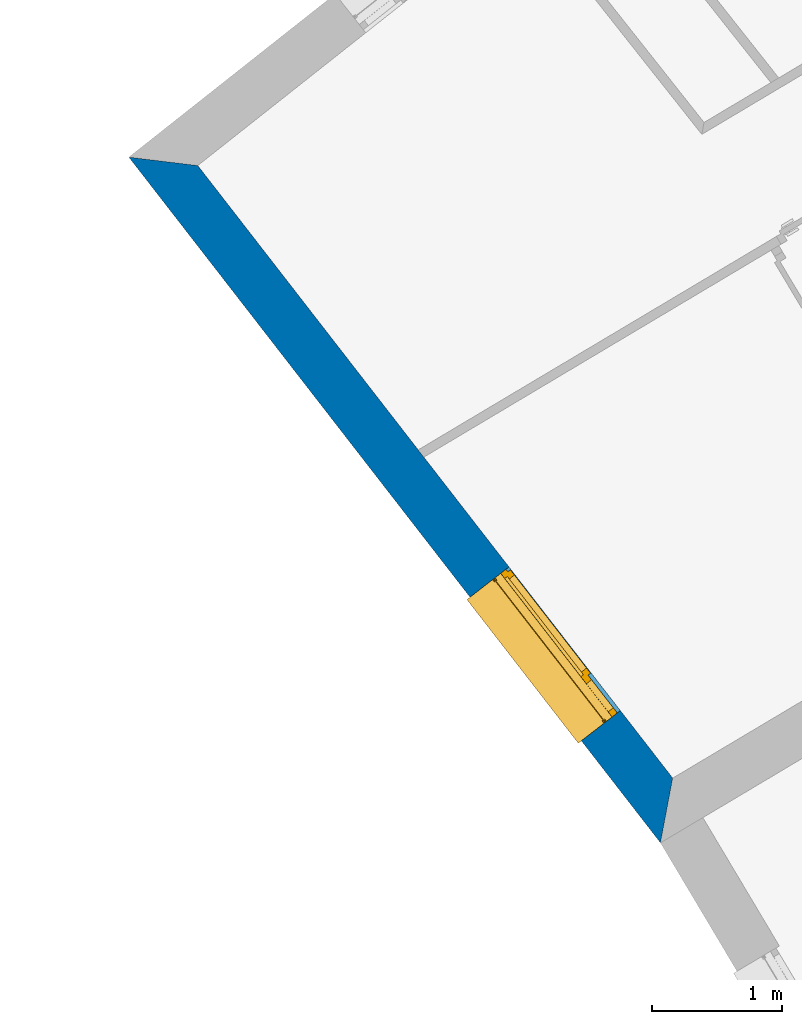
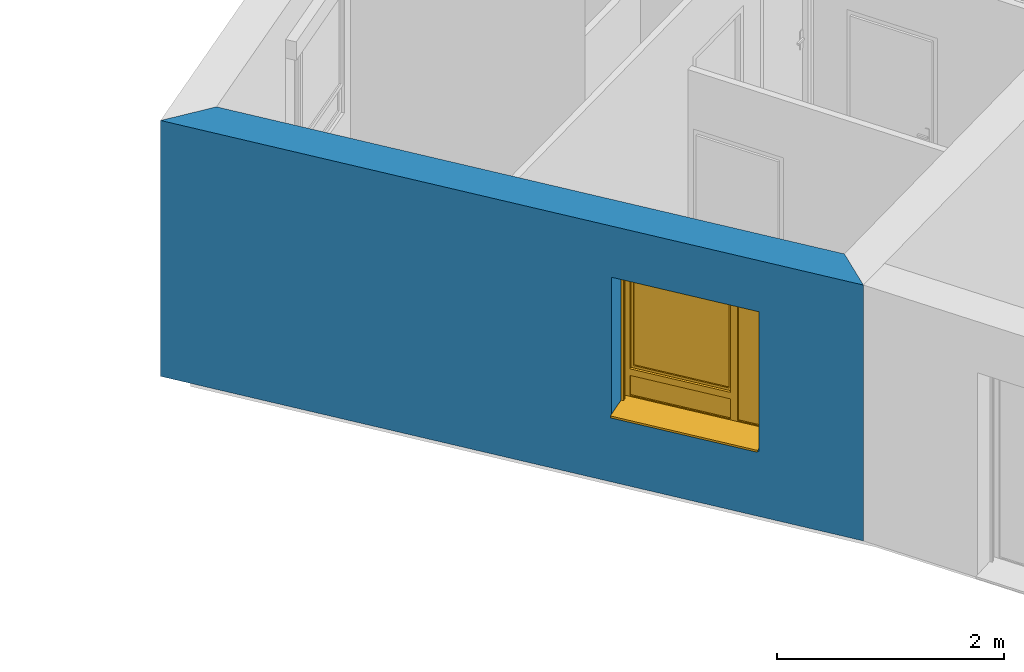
# One storey, part 40 of 121: 1 wall, 1 window, 1 opening.
"""IFC2X3 building model written with IfcOpenShell, lengths in metres."""

from ifc_helpers import new_model, entity, si_unit, converted_unit, derived_unit, money_unit, direction, frame, origin_with_axes, place, context, subcontext, project, spatial, polyline, outline, extrude, open_shell, faceted_brep, surface_model, source, transform, mapped, material, layer, layer_set, layer_usage, type_object, element, fill, save


model = new_model("IFC2X3")

# Units and contexts
model_context = context("Model", 3, precision=1e-05, world=origin_with_axes(), true_north=direction((0.0, 1.0)))
body_context = subcontext(model_context, "Body", "Model", "MODEL_VIEW")
ifc_project = project(units=[si_unit("LENGTHUNIT", "METRE"), si_unit("AREAUNIT", "SQUARE_METRE"), si_unit("VOLUMEUNIT", "CUBIC_METRE"), converted_unit("PLANEANGLEUNIT", "DEGREE", entity("IfcPlaneAngleMeasure", 0.0174532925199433), si_unit("PLANEANGLEUNIT", "RADIAN"), dimensions=[0, 0, 0, 0, 0, 0, 0]), money_unit("CHF"), converted_unit("TIMEUNIT", "Year", entity("IfcTimeMeasure", 31557600.0), si_unit("TIMEUNIT", "SECOND"), dimensions=[0, 0, 1, 0, 0, 0, 0]), si_unit("MASSUNIT", "GRAM", prefix="KILO"), si_unit("THERMODYNAMICTEMPERATUREUNIT", "DEGREE_CELSIUS"), si_unit("LUMINOUSINTENSITYUNIT", "LUMEN"), si_unit("ENERGYUNIT", "JOULE", prefix="MEGA"), derived_unit("THERMALCONDUCTANCEUNIT", [(si_unit("POWERUNIT", "WATT"), 1), (si_unit("LENGTHUNIT", "METRE"), -1), (si_unit("THERMODYNAMICTEMPERATUREUNIT", "KELVIN"), -1)]), derived_unit("SPECIFICHEATCAPACITYUNIT", [(si_unit("ENERGYUNIT", "JOULE"), 1), (si_unit("MASSUNIT", "GRAM", prefix="KILO"), -1), (si_unit("THERMODYNAMICTEMPERATUREUNIT", "KELVIN"), -1)]), derived_unit("MASSDENSITYUNIT", [(si_unit("MASSUNIT", "GRAM", prefix="KILO"), 1), (si_unit("VOLUMEUNIT", "CUBIC_METRE"), -1)])], contexts=[model_context])

# Site, building, storey
site_placement = place(None, origin_with_axes())
site = spatial("IfcSite", under=ifc_project, at=site_placement, Name="Site", CompositionType="ELEMENT")
building_placement = place(site_placement, origin_with_axes())
building = spatial("IfcBuilding", under=site, at=building_placement, Name="Bâtiment", CompositionType="ELEMENT")
storey_placement = place(building_placement, frame((0.0, 0.0, 2.75), z_axis=(0.0, 0.0, 1.0), x_axis=(1.0, 0.0, 0.0)))
storey = spatial("IfcBuildingStorey", under=building, at=storey_placement, Name="Etage 1", CompositionType="ELEMENT", Elevation=2.75)

# Wall, opening, window
ifc_material_1 = material(Name="Parpaing 312445824")
ifc_layer_1 = layer(ifc_material_1, 0.22, ventilated="UNKNOWN")
ifc_material_2 = material(Name="Isolant styromousse 301821074")
ifc_layer_2 = layer(ifc_material_2, 0.16, ventilated="UNKNOWN")
ifc_layer_set = layer_set([ifc_layer_1, ifc_layer_2], Name="isol int 22+16 0836643197")
ifc_layer_usage = layer_usage(ifc_layer_set, "AXIS2", "POSITIVE", 0.0)
wall_type = type_object("IfcWallType", Name="isol int 22+16 0836643197 380", PredefinedType="NOTDEFINED")
wall_placement = place(storey_placement, frame((9534.350950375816, -1041.923994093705, 57.7), z_axis=(0.0, 0.0, 1.0), x_axis=(0.6127569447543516, -0.79027142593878, 0.0)))
wall = element("IfcWallStandardCase", 1, at=wall_placement, inside=storey, type_object=wall_type, material=ifc_layer_usage, Name="Mur-113", context=body_context, shape_type="SweptSolid", body=[
    extrude(outline(polyline([(0.0, 0.0), (6.684138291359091, 0.0), (6.34796234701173, 0.3800000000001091), (0.3764847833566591, 0.3799999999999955), (0.0, 0.0)])), origin_with_axes(), (0.0, 0.0, 1.0), 2.75),
])
opening_placement = place(wall_placement, frame((4.989416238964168, 0.0, 0.7000000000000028), z_axis=(0.0, 0.0, 1.0), x_axis=(1.0, 0.0, 0.0)))
opening = element("IfcOpeningElement", 2, at=opening_placement, cuts=wall, Name="Fen-045", context=body_context, shape_type="Brep", body=[
    faceted_brep([(-0.7000000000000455, 0.4800000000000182, 1.5), (0.7000000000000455, 0.4800000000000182, 1.5), (0.7000000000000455, 3.617755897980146, 1.5), (-0.6999999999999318, 3.617755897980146, 1.5), (-0.7000000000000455, 0.4800000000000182, 1.700000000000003), (0.7000000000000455, 0.4800000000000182, 1.700000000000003), (0.7000000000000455, 0.3000000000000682, 1.5), (0.7000000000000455, 0.3000000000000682, 0.0), (0.7000000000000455, 3.617755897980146, 0.0), (-0.6999999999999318, 3.617755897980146, 0.0), (-0.7000000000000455, 0.2999999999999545, 1.5), (-0.7000000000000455, 0.2999999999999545, 0.0), (-0.7000000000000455, 0.2200000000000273, 1.5), (-0.7000000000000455, 0.2200000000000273, 1.700000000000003), (0.7000000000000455, 0.2200000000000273, 1.700000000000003), (0.7000000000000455, 0.2200000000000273, 1.5), (0.7000000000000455, -3.237755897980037, 1.5), (0.7000000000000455, -3.237755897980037, 0.0), (-0.7000000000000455, -3.237755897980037, 0.0), (-0.7000000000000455, -3.237755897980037, 1.5)], [[[0, 1, 2, 3]], [[1, 0, 4, 5]], [[1, 6, 7, 8, 2]], [[2, 8, 9, 3]], [[10, 0, 3, 9, 11]], [[0, 10, 12, 13, 4]], [[14, 5, 4, 13]], [[6, 1, 5, 14, 15]], [[6, 15, 16, 17, 7]], [[7, 11, 9, 8]], [[12, 10, 11, 18, 19]], [[12, 15, 14, 13]], [[15, 12, 19, 16]], [[19, 18, 17, 16]], [[11, 7, 17, 18]]]),
])
window_style = type_object("IfcWindowStyle", Name="Fenêtre variable 27", ConstructionType="NOTDEFINED", OperationType="TRIPLE_PANEL_RIGHT", ParameterTakesPrecedence=False, Sizeable=False)
shared_shape = source(origin_with_axes(), body_context, "Body", "SurfaceModel", [
    surface_model("IfcShellBasedSurfaceModel", [(-0.7, -0.05100000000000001, 0.05), (-0.7, -0.05100000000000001, 0.04), (0.7, -0.05100000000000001, 0.04000000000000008), (0.7, -0.05100000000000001, 0.05000000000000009), (-0.7, -0.3799999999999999, 0.02899999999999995), (0.7, -0.3799999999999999, 0.02900000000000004), (-0.7, -0.3799999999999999, 0.008999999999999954), (0.7, -0.3799999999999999, 0.00900000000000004), (-0.7, -0.3699999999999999, 0.01899999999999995), (0.7, -0.3699999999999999, 0.01900000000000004)], [open_shell([[[0, 1, 2, 3]], [[1, 4, 5, 2]], [[4, 6, 7, 5]], [[6, 8, 9, 7]]])]),
    faceted_brep([(-0.7, -0.13, 1.7), (-0.697, -0.13, 1.7), (-0.697, 0.13, 1.7), (-0.7, 0.13, 1.7), (-0.7, -0.13, 1.5), (-0.697, -0.13, 1.5), (-0.697, 0.13, 1.5), (-0.7, 0.13, 1.5)], [[[0, 1, 2, 3]], [[4, 5, 1, 0]], [[1, 5, 6, 2]], [[3, 2, 6, 7]], [[0, 3, 7, 4]], [[7, 6, 5, 4]]]),
    faceted_brep([(0.6970000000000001, -0.1299999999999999, 1.7), (0.7000000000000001, -0.1299999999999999, 1.7), (0.7000000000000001, 0.1300000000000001, 1.7), (0.6970000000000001, 0.1300000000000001, 1.7), (0.6970000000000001, -0.1299999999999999, 1.5), (0.7000000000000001, -0.1299999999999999, 1.5), (0.7000000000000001, 0.1300000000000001, 1.5), (0.6970000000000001, 0.1300000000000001, 1.5)], [[[0, 1, 2, 3]], [[4, 5, 1, 0]], [[1, 5, 6, 2]], [[3, 2, 6, 7]], [[0, 3, 7, 4]], [[7, 6, 5, 4]]]),
    faceted_brep([(-0.697, -0.13, 1.5), (0.697, -0.1299999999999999, 1.5), (0.697, -0.1299999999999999, 1.7), (-0.697, -0.13, 1.7), (-0.697, -0.127, 1.5), (0.697, -0.1269999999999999, 1.5), (0.697, -0.1269999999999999, 1.697), (0.697, 0.1270000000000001, 1.697), (0.697, 0.1270000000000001, 1.503), (0.697, -0.1079999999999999, 1.503), (0.697, -0.1079999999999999, 1.5), (0.697, 0.1300000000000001, 1.5), (0.697, 0.1300000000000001, 1.7), (-0.697, 0.13, 1.7), (-0.697, 0.13, 1.5), (-0.697, -0.108, 1.5), (-0.697, -0.108, 1.503), (-0.697, 0.127, 1.503), (-0.697, 0.127, 1.697), (-0.697, -0.127, 1.697)], [[[0, 1, 2, 3]], [[4, 5, 1, 0]], [[1, 5, 6, 7, 8, 9, 10, 11, 12, 2]], [[3, 2, 12, 13]], [[0, 3, 13, 14, 15, 16, 17, 18, 19, 4]], [[19, 6, 5, 4]], [[18, 7, 6, 19]], [[17, 8, 7, 18]], [[16, 9, 8, 17]], [[15, 10, 9, 16]], [[14, 11, 10, 15]], [[13, 12, 11, 14]]]),
    faceted_brep([(-0.694, -0.08075423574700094, 1.585760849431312), (-0.694, -0.08200000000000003, 1.6), (-0.694, -0.0807542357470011, 1.614239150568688), (-0.694, -0.07705479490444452, 1.628045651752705), (-0.694, -0.07101408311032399, 1.641), (-0.694, -0.06281564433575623, 1.652708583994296), (-0.694, -0.05270858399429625, 1.662815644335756), (-0.694, -0.04100000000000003, 1.671014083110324), (-0.694, -0.02804565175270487, 1.677054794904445), (-0.694, -0.01423915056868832, 1.680754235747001), (-0.694, 0.0, 1.682), (-0.694, 0.01423915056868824, 1.680754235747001), (-0.694, 0.02804565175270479, 1.677054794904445), (-0.694, 0.04099999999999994, 1.671014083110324), (-0.694, 0.05270858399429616, 1.662815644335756), (-0.694, 0.06281564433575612, 1.652708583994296), (-0.694, 0.07101408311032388, 1.641), (-0.694, 0.0770547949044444, 1.628045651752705), (-0.694, 0.08075423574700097, 1.614239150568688), (-0.694, 0.0819999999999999, 1.6), (-0.694, 0.08075423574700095, 1.585760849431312), (-0.694, 0.07705479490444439, 1.571954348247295), (-0.694, 0.07101408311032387, 1.559), (-0.694, 0.06281564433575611, 1.547291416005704), (-0.694, 0.05270858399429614, 1.537184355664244), (-0.694, 0.04099999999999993, 1.528985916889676), (-0.694, 0.02804565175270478, 1.522945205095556), (-0.694, 0.01423915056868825, 1.519245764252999), (-0.694, 0.0, 1.518), (-0.694, -0.01423915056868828, 1.519245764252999), (-0.694, -0.02804565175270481, 1.522945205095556), (-0.694, -0.04099999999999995, 1.528985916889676), (-0.694, -0.05270858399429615, 1.537184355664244), (-0.694, -0.06281564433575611, 1.547291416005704), (-0.694, -0.07101408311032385, 1.559), (-0.694, -0.07705479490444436, 1.571954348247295), (0.694, -0.08075423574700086, 1.585760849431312), (0.694, -0.08199999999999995, 1.6), (0.694, -0.08075423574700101, 1.614239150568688), (0.694, -0.07705479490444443, 1.628045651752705), (0.694, -0.07101408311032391, 1.641), (0.694, -0.06281564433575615, 1.652708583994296), (0.694, -0.05270858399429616, 1.662815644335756), (0.694, -0.04099999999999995, 1.671014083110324), (0.694, -0.02804565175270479, 1.677054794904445), (0.694, -0.01423915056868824, 1.680754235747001), (0.694, 0.0, 1.682), (0.694, 0.01423915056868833, 1.680754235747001), (0.694, 0.02804565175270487, 1.677054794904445), (0.694, 0.04100000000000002, 1.671014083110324), (0.694, 0.05270858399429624, 1.662815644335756), (0.694, 0.0628156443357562, 1.652708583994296), (0.694, 0.07101408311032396, 1.641), (0.694, 0.07705479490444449, 1.628045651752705), (0.694, 0.08075423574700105, 1.614239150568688), (0.694, 0.08199999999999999, 1.6), (0.694, 0.08075423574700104, 1.585760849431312), (0.694, 0.07705479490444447, 1.571954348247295), (0.694, 0.07101408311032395, 1.559), (0.694, 0.06281564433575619, 1.547291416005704), (0.694, 0.05270858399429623, 1.537184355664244), (0.694, 0.04100000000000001, 1.528985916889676), (0.694, 0.02804565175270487, 1.522945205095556), (0.694, 0.01423915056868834, 1.519245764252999), (0.694, 0.0, 1.518), (0.694, -0.0142391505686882, 1.519245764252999), (0.694, -0.02804565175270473, 1.522945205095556), (0.694, -0.04099999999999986, 1.528985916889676), (0.694, -0.05270858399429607, 1.537184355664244), (0.694, -0.06281564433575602, 1.547291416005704), (0.694, -0.07101408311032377, 1.559), (0.694, -0.07705479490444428, 1.571954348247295)], [[[0, 1, 2, 3, 4, 5, 6, 7, 8, 9, 10, 11, 12, 13, 14, 15, 16, 17, 18, 19, 20, 21, 22, 23, 24, 25, 26, 27, 28, 29, 30, 31, 32, 33, 34, 35]], [[0, 36, 37, 1]], [[1, 37, 38, 2]], [[2, 38, 39, 3]], [[3, 39, 40, 4]], [[4, 40, 41, 5]], [[5, 41, 42, 6]], [[6, 42, 43, 7]], [[7, 43, 44, 8]], [[8, 44, 45, 9]], [[9, 45, 46, 10]], [[10, 46, 47, 11]], [[11, 47, 48, 12]], [[12, 48, 49, 13]], [[13, 49, 50, 14]], [[14, 50, 51, 15]], [[15, 51, 52, 16]], [[16, 52, 53, 17]], [[17, 53, 54, 18]], [[18, 54, 55, 19]], [[19, 55, 56, 20]], [[20, 56, 57, 21]], [[21, 57, 58, 22]], [[22, 58, 59, 23]], [[23, 59, 60, 24]], [[24, 60, 61, 25]], [[25, 61, 62, 26]], [[26, 62, 63, 27]], [[27, 63, 64, 28]], [[28, 64, 65, 29]], [[29, 65, 66, 30]], [[30, 66, 67, 31]], [[31, 67, 68, 32]], [[32, 68, 69, 33]], [[33, 69, 70, 34]], [[34, 70, 71, 35]], [[35, 71, 36, 0]], [[36, 71, 70, 69, 68, 67, 66, 65, 64, 63, 62, 61, 60, 59, 58, 57, 56, 55, 54, 53, 52, 51, 50, 49, 48, 47, 46, 45, 44, 43, 42, 41, 40, 39, 38, 37]]]),
    faceted_brep([(0.7, -0.105, 0.03), (0.7, -0.1049999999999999, 1.5), (0.7, -0.1299999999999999, 1.5), (0.7, -0.13, 0.03), (0.6749999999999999, -0.105, 0.03), (0.6749999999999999, -0.1049999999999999, 1.5), (0.6749999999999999, -0.1079999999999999, 1.5), (0.697, -0.1079999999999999, 1.5), (0.697, -0.1269999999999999, 1.5), (0.6749999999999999, -0.1269999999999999, 1.5), (0.6749999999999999, -0.1299999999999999, 1.5), (0.6749999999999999, -0.13, 0.03), (0.6749999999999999, -0.127, 0.03), (0.697, -0.127, 0.03), (0.697, -0.108, 0.03), (0.6749999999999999, -0.108, 0.03)], [[[0, 1, 2, 3]], [[4, 5, 1, 0]], [[1, 5, 6, 7, 8, 9, 10, 2]], [[3, 2, 10, 11]], [[0, 3, 11, 12, 13, 14, 15, 4]], [[15, 6, 5, 4]], [[14, 7, 6, 15]], [[13, 8, 7, 14]], [[12, 9, 8, 13]], [[11, 10, 9, 12]]]),
    faceted_brep([(-0.7, -0.105, 0.03), (-0.7, -0.13, 0.03), (-0.7, -0.1299999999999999, 1.5), (-0.7, -0.1049999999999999, 1.5), (-0.6749999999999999, -0.105, 0.03), (-0.6749999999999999, -0.108, 0.03), (-0.697, -0.108, 0.03), (-0.697, -0.127, 0.03), (-0.6749999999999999, -0.127, 0.03), (-0.6749999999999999, -0.13, 0.03), (-0.6749999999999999, -0.1299999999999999, 1.5), (-0.6749999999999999, -0.1269999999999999, 1.5), (-0.697, -0.1269999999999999, 1.5), (-0.697, -0.1079999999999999, 1.5), (-0.6749999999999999, -0.1079999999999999, 1.5), (-0.6749999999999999, -0.1049999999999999, 1.5)], [[[0, 1, 2, 3]], [[0, 4, 5, 6, 7, 8, 9, 1]], [[1, 9, 10, 2]], [[3, 2, 10, 11, 12, 13, 14, 15]], [[4, 0, 3, 15]], [[5, 4, 15, 14]], [[6, 5, 14, 13]], [[7, 6, 13, 12]], [[8, 7, 12, 11]], [[9, 8, 11, 10]]]),
    surface_model("IfcShellBasedSurfaceModel", [(-0.697, -0.115, 1.6), (0.697, -0.1149999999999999, 1.6), (0.697, -0.1199999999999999, 1.6), (-0.697, -0.12, 1.6), (-0.697, -0.115, 1.6), (-0.697, -0.12, 1.6), (0.697, -0.12, 1.6), (0.697, -0.1149999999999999, 1.6)], [open_shell([[[0, 1, 2, 3]], [[4, 5, 6, 7]]])]),
    faceted_brep([(-0.697, -0.115, 1.6), (0.697, -0.1149999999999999, 1.6), (0.697, -0.1166666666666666, 1.583333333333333), (-0.697, -0.1166666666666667, 1.583333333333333), (-0.697, -0.12, 1.6), (0.697, -0.1199999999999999, 1.6), (0.697, -0.1216666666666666, 1.583333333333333), (0.697, -0.1216666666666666, 1.566666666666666), (0.697, -0.1199999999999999, 1.55), (0.697, -0.1149999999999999, 1.55), (0.697, -0.1166666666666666, 1.566666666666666), (-0.697, -0.1166666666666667, 1.566666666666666), (-0.697, -0.115, 1.55), (-0.697, -0.12, 1.55), (-0.697, -0.1216666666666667, 1.566666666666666), (-0.697, -0.1216666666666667, 1.583333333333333)], [[[0, 1, 2, 3]], [[4, 5, 1, 0]], [[1, 5, 6, 7, 8, 9, 10, 2]], [[3, 2, 10, 11]], [[0, 3, 11, 12, 13, 14, 15, 4]], [[15, 6, 5, 4]], [[14, 7, 6, 15]], [[13, 8, 7, 14]], [[12, 9, 8, 13]], [[11, 10, 9, 12]]]),
    faceted_brep([(-0.697, -0.115, 1.55), (0.697, -0.1149999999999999, 1.55), (0.697, -0.1166666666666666, 1.533333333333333), (-0.697, -0.1166666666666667, 1.533333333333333), (-0.697, -0.12, 1.55), (0.697, -0.1199999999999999, 1.55), (0.697, -0.1216666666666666, 1.533333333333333), (0.697, -0.1216666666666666, 1.516666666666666), (0.697, -0.1199999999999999, 1.5), (0.697, -0.1149999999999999, 1.5), (0.697, -0.1166666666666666, 1.516666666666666), (-0.697, -0.1166666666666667, 1.516666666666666), (-0.697, -0.115, 1.5), (-0.697, -0.12, 1.5), (-0.697, -0.1216666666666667, 1.516666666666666), (-0.697, -0.1216666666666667, 1.533333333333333)], [[[0, 1, 2, 3]], [[4, 5, 1, 0]], [[1, 5, 6, 7, 8, 9, 10, 2]], [[3, 2, 10, 11]], [[0, 3, 11, 12, 13, 14, 15, 4]], [[15, 6, 5, 4]], [[14, 7, 6, 15]], [[13, 8, 7, 14]], [[12, 9, 8, 13]], [[11, 10, 9, 12]]]),
    faceted_brep([(-0.6749999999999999, 0.0, 1.45), (-0.7, 0.0, 1.45), (-0.7, -0.05000000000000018, 1.45), (-0.6499999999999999, -0.05000000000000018, 1.45), (-0.6499999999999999, -0.02500000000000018, 1.45), (-0.6749999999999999, -0.02500000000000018, 1.45), (-0.6749999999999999, 0.0, 0.3099999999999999), (-0.6499999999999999, 0.0, 0.3099999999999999), (-0.6499999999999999, 0.0, 0.265), (-0.6499999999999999, 0.0, 0.05000000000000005), (-0.7, 0.0, 0.05000000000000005), (-0.7, -0.05000000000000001, 0.05000000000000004), (-0.6499999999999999, -0.05000000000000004, 0.335), (-0.6499999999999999, -0.05000000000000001, 0.05000000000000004), (-0.6499999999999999, -0.05000000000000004, 0.265), (-0.6499999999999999, -0.02500000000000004, 0.335), (-0.6499999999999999, -0.02500000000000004, 0.3099999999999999), (-0.6749999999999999, -0.02500000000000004, 0.3099999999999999)], [[[0, 1, 2, 3, 4, 5]], [[6, 7, 8, 9, 10, 1, 0]], [[1, 10, 11, 2]], [[12, 3, 2, 11, 13, 14]], [[4, 3, 12, 15]], [[15, 16, 17, 5, 4]], [[5, 17, 6, 0]], [[6, 17, 16, 7]], [[16, 15, 12, 14, 8, 7]], [[9, 8, 14, 13]], [[10, 9, 13, 11]]]),
    faceted_brep([(0.3068894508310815, -0.02500000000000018, 1.45), (0.3068894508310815, -0.05000000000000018, 1.45), (0.3768894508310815, -0.05000000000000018, 1.45), (0.3768894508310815, 0.0, 1.45), (0.3318894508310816, 0.0, 1.45), (0.3318894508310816, -0.02500000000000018, 1.45), (0.3068894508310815, -0.02500000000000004, 0.335), (0.3068894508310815, -0.05000000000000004, 0.335), (0.3068894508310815, -0.05000000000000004, 0.265), (0.3068894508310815, -0.05000000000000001, 0.05000000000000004), (0.3768894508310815, -0.05000000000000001, 0.05000000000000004), (0.3768894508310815, 0.0, 0.05000000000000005), (0.3318894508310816, 0.0, 0.3099999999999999), (0.3068894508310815, 0.0, 0.05000000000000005), (0.3068894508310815, 0.0, 0.265), (0.3068894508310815, 0.0, 0.3099999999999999), (0.3318894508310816, -0.02500000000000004, 0.3099999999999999), (0.3068894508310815, -0.02500000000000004, 0.3099999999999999)], [[[0, 1, 2, 3, 4, 5]], [[6, 7, 1, 0]], [[8, 9, 10, 2, 1, 7]], [[11, 3, 2, 10]], [[12, 4, 3, 11, 13, 14, 15]], [[12, 16, 5, 4]], [[5, 16, 17, 6, 0]], [[17, 15, 14, 8, 7, 6]], [[14, 13, 9, 8]], [[13, 11, 10, 9]], [[15, 17, 16, 12]]]),
    faceted_brep([(-0.6499999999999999, -0.02500000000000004, 0.335), (-0.6499999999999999, -0.05000000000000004, 0.335), (0.3068894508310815, -0.05000000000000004, 0.335), (0.3068894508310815, -0.02500000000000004, 0.335), (-0.6499999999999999, -0.02500000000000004, 0.3099999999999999), (-0.6499999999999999, 0.0, 0.3099999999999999), (-0.6499999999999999, 0.0, 0.265), (-0.6499999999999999, -0.05000000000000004, 0.265), (0.3068894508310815, -0.05000000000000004, 0.265), (0.3068894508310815, -0.02500000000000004, 0.3099999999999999), (0.3068894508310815, 0.0, 0.265), (0.3068894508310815, 0.0, 0.3099999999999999)], [[[0, 1, 2, 3]], [[4, 5, 6, 7, 1, 0]], [[2, 1, 7, 8]], [[9, 3, 2, 8, 10, 11]], [[9, 4, 0, 3]], [[5, 4, 9, 11]], [[11, 10, 6, 5]], [[6, 10, 8, 7]]]),
    faceted_brep([(-0.6749999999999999, 0.0, 1.45), (-0.7, 0.0, 1.45), (-0.7, 0.0, 1.5), (0.7, 0.0, 1.5), (0.7, 0.0, 1.45), (0.6499999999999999, 0.0, 1.45), (0.3768894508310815, 0.0, 1.45), (0.3318894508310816, 0.0, 1.45), (0.3318894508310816, 0.0, 1.475), (-0.6749999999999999, 0.0, 1.475), (-0.6749999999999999, -0.02500000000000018, 1.45), (-0.6499999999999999, -0.02500000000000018, 1.45), (-0.6499999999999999, -0.05000000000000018, 1.45), (-0.7, -0.05000000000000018, 1.45), (-0.7, -0.05000000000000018, 1.5), (0.7, -0.05000000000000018, 1.5), (0.7, -0.05000000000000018, 1.45), (0.6499999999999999, -0.05000000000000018, 1.45), (0.3768894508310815, -0.05000000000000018, 1.45), (0.3318894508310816, -0.02500000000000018, 1.45), (0.3068894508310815, -0.05000000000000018, 1.45), (0.3068894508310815, -0.02500000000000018, 1.45), (0.3318894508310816, -0.02500000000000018, 1.475), (-0.6749999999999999, -0.02500000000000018, 1.475)], [[[0, 1, 2, 3, 4, 5, 6, 7, 8, 9]], [[10, 11, 12, 13, 1, 0]], [[2, 1, 13, 14]], [[3, 2, 14, 15]], [[4, 3, 15, 16]], [[5, 4, 16, 17]], [[6, 5, 17, 18]], [[19, 7, 6, 18, 20, 21]], [[7, 19, 22, 8]], [[8, 22, 23, 9]], [[9, 23, 10, 0]], [[21, 11, 10, 23, 22, 19]], [[21, 20, 12, 11]], [[18, 17, 16, 15, 14, 13, 12, 20]]]),
    faceted_brep([(0.6499999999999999, -0.05000000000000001, 0.05), (0.6499999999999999, 0.0, 0.05000000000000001), (0.7, 0.0, 0.05000000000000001), (0.7, -0.05000000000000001, 0.05), (0.6499999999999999, -0.05000000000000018, 1.45), (0.6499999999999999, 0.0, 1.45), (0.7, 0.0, 1.45), (0.7, -0.05000000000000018, 1.45)], [[[0, 1, 2, 3]], [[4, 5, 1, 0]], [[1, 5, 6, 2]], [[3, 2, 6, 7]], [[0, 3, 7, 4]], [[7, 6, 5, 4]]]),
    faceted_brep([(-0.6499999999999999, -0.05000000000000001, 0.05), (-0.6499999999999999, 0.0, 0.05000000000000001), (-0.7, 0.0, 0.05000000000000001), (-0.7, -0.05000000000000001, 0.05), (0.3068894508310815, -0.05000000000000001, 0.05), (0.3068894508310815, 0.0, 0.05000000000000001), (0.3768894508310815, 0.0, 0.05000000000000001), (0.6499999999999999, 0.0, 0.05000000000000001), (0.7, 0.0, 0.05000000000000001), (0.7, 0.0, 0.0), (-0.7, 0.0, 0.0), (-0.7, -0.05, 0.0), (0.7, -0.05, 0.0), (0.7, -0.05000000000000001, 0.05), (0.6499999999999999, -0.05000000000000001, 0.05), (0.3768894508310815, -0.05000000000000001, 0.05)], [[[0, 1, 2, 3]], [[4, 5, 1, 0]], [[1, 5, 6, 7, 8, 9, 10, 2]], [[3, 2, 10, 11]], [[0, 3, 11, 12, 13, 14, 15, 4]], [[15, 6, 5, 4]], [[14, 7, 6, 15]], [[13, 8, 7, 14]], [[12, 9, 8, 13]], [[11, 10, 9, 12]]]),
    faceted_brep([(-0.625, -0.02500000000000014, 1.425), (-0.625, 0.02499999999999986, 1.425), (-0.6749999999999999, 0.02499999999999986, 1.425), (-0.6749999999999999, -0.02500000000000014, 1.425), (-0.625, -0.02500000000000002, 0.3599999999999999), (-0.625, 0.02499999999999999, 0.3599999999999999), (-0.6749999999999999, 0.02499999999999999, 0.3599999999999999), (-0.6749999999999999, -0.02500000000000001, 0.3599999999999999)], [[[0, 1, 2, 3]], [[4, 5, 1, 0]], [[1, 5, 6, 2]], [[3, 2, 6, 7]], [[0, 3, 7, 4]], [[7, 6, 5, 4]]]),
    faceted_brep([(0.2818894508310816, -0.02500000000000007, 0.3599999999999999), (0.2818894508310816, 0.02499999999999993, 0.3599999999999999), (0.3318894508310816, 0.02499999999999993, 0.3599999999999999), (0.3318894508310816, -0.02500000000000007, 0.3599999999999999), (0.2818894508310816, -0.0250000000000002, 1.425), (0.2818894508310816, 0.0249999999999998, 1.425), (0.3318894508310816, 0.0249999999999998, 1.425), (0.3318894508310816, -0.0250000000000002, 1.425)], [[[0, 1, 2, 3]], [[4, 5, 1, 0]], [[1, 5, 6, 2]], [[3, 2, 6, 7]], [[0, 3, 7, 4]], [[7, 6, 5, 4]]]),
    faceted_brep([(0.3318894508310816, -0.02500000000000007, 0.3099999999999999), (0.3318894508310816, 0.02499999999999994, 0.3099999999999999), (0.3318894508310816, 0.02499999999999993, 0.3599999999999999), (0.3318894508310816, -0.02500000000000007, 0.3599999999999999), (-0.6749999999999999, -0.025, 0.3099999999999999), (-0.6749999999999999, 0.02499999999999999, 0.3099999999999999), (-0.6749999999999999, 0.02499999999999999, 0.3599999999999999), (-0.625, 0.02499999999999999, 0.3599999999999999), (0.2818894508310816, 0.02499999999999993, 0.3599999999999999), (0.2818894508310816, -0.02500000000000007, 0.3599999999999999), (-0.625, -0.02500000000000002, 0.3599999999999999), (-0.6749999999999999, -0.02500000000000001, 0.3599999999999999)], [[[0, 1, 2, 3]], [[4, 5, 1, 0]], [[1, 5, 6, 7, 8, 2]], [[3, 2, 8, 9]], [[0, 3, 9, 10, 11, 4]], [[11, 6, 5, 4]], [[10, 7, 6, 11]], [[9, 8, 7, 10]]]),
    faceted_brep([(-0.6749999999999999, -0.02500000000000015, 1.475), (-0.6749999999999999, 0.02499999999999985, 1.475), (-0.6749999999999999, 0.02499999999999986, 1.425), (-0.6749999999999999, -0.02500000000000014, 1.425), (0.3318894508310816, -0.02500000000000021, 1.475), (0.3318894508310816, 0.02499999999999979, 1.475), (0.3318894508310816, 0.0249999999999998, 1.425), (0.2818894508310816, 0.0249999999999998, 1.425), (-0.625, 0.02499999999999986, 1.425), (-0.625, -0.02500000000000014, 1.425), (0.2818894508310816, -0.0250000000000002, 1.425), (0.3318894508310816, -0.0250000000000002, 1.425)], [[[0, 1, 2, 3]], [[4, 5, 1, 0]], [[1, 5, 6, 7, 8, 2]], [[3, 2, 8, 9]], [[0, 3, 9, 10, 11, 4]], [[11, 6, 5, 4]], [[10, 7, 6, 11]], [[9, 8, 7, 10]]]),
    surface_model("IfcShellBasedSurfaceModel", [(-0.625, -0.01000000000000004, 0.3599999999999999), (0.2818894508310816, -0.01000000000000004, 0.3599999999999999), (0.2818894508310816, -0.01000000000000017, 1.425), (-0.625, -0.01000000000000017, 1.425)], [open_shell([[[0, 1, 2, 3]]])]),
    surface_model("IfcShellBasedSurfaceModel", [(-0.625, 0.009999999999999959, 0.3599999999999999), (-0.625, 0.00999999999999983, 1.425), (0.2818894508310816, 0.00999999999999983, 1.425), (0.2818894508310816, 0.009999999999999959, 0.3599999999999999)], [open_shell([[[0, 1, 2, 3]]])]),
    surface_model("IfcShellBasedSurfaceModel", [(0.3768894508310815, -0.035, 0.05), (0.65, -0.035, 0.05), (0.65, -0.03500000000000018, 1.45), (0.3768894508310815, -0.03500000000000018, 1.45)], [open_shell([[[0, 1, 2, 3]]])]),
    surface_model("IfcShellBasedSurfaceModel", [(0.3768894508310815, -0.015, 0.05), (0.3768894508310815, -0.01500000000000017, 1.45), (0.65, -0.01500000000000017, 1.45), (0.65, -0.015, 0.05)], [open_shell([[[0, 1, 2, 3]]])]),
    surface_model("IfcShellBasedSurfaceModel", [(-0.6499999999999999, -0.035, 0.05), (0.3068894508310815, -0.035, 0.05), (0.3068894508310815, -0.03500000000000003, 0.265), (-0.6499999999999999, -0.03500000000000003, 0.265)], [open_shell([[[0, 1, 2, 3]]])]),
    surface_model("IfcShellBasedSurfaceModel", [(-0.6499999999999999, -0.015, 0.05), (-0.6499999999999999, -0.01500000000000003, 0.265), (0.3068894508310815, -0.01500000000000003, 0.265), (0.3068894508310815, -0.015, 0.05)], [open_shell([[[0, 1, 2, 3]]])]),
])
window_placement = place(opening_placement, frame((-0.6999999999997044, 0.0, 0.0), z_axis=(0.0, 0.0, 1.0), x_axis=(1.0, 0.0, 0.0)))
window = element("IfcWindow", 3, at=window_placement, inside=storey, type_object=window_style, Name="Fen-045", OverallHeight=1.5, OverallWidth=1.4, context=body_context, shape_type="MappedRepresentation", body=[
    mapped(shared_shape, transform((0.7000000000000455, 0.3500000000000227, 0.0))),
])
fill(opening, window)

save(model, "model.ifc")
